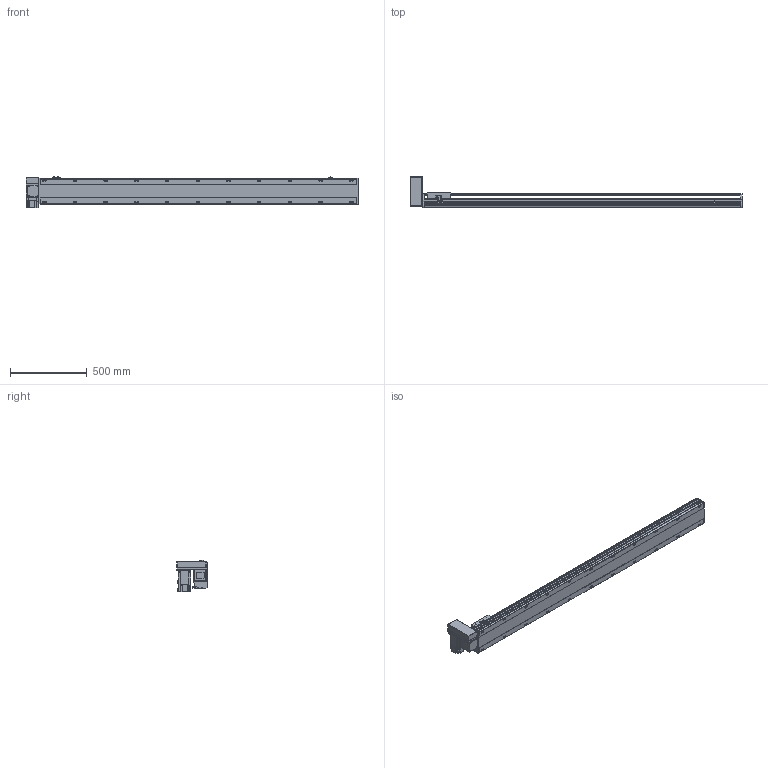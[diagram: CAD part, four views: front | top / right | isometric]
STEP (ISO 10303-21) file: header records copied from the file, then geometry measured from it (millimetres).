
FILE_DESCRIPTION(/* description */ ('STEP AP214'),/* implementation_level */ '2;1');
FILE_NAME(/* name */ 'PBS170-P40-S1800-RU-T75-C1-N(0)',/* time_stamp */ '2022-06-08T07:59:38+02:00',/* author */ ('License CC BY-ND 4.0'),/* organization */ ('CADENAS'),/* preprocessor_version */ 'ST-DEVELOPER v18.102',/* originating_system */ 'PARTsolutions',/* authorisation */ ' ');
FILE_SCHEMA (('AUTOMOTIVE_DESIGN {1 0 10303 214 3 1 1}'));
Length unit declared in the file: millimetre
Products named in the file (7): PBS170-P40-S1800-RU-T75-C1-N(0); PBS170_sensor; PBS170_plant; PBS170_sliser; T75-p1; PBS170T-RU_motors; PBS170-S1800()_body
Assembly tree (8 placements, depth 2):
  PBS170-P40-S1800-RU-T75-C1-N(0)
    PBS170_sensor  x3
    PBS170_plant
    PBS170_sliser
    T75-p1
    PBS170T-RU_motors
    PBS170-S1800()_body
Bounding box: 2163 x 206 x 205.3 mm (x, y, z)
Volume: 16692904.7 mm3; surface area: 2127027.5 mm2
Topology: 8 solids, 8 shells, 1130 faces, 2995 edges, 1952 vertices
Faces by surface type: plane 705, cylinder 363, cone 52, sphere 8, torus 2
Full cylindrical faces by diameter (mm): 3.242 x4, 4 x2, 4.4 x4, 4.5 x6, 4.917 x4, 6 x9, 6.647 x30, 7 x2, 7.5 x4, 8 x8, 8.5 x22, 10 x4, 10.5 x22, 11 x2, 30 x2, 40 x1, 70 x1
Entity records: 32492 total; most frequent: CARTESIAN_POINT 6049, DIRECTION 5510, ORIENTED_EDGE 5208, EDGE_CURVE 2604, AXIS2_PLACEMENT_3D 1927, VERTEX_POINT 1802, LINE 1656, VECTOR 1656
